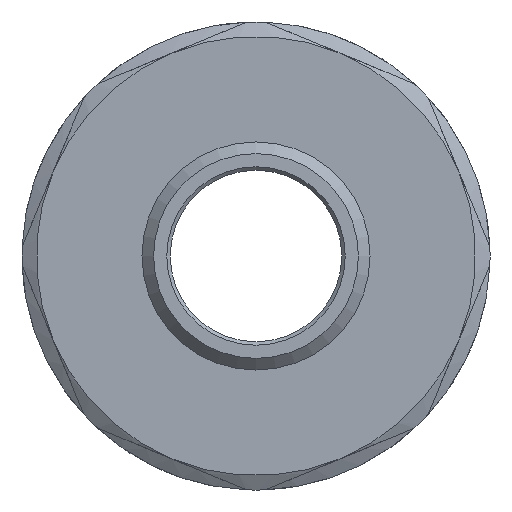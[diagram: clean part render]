
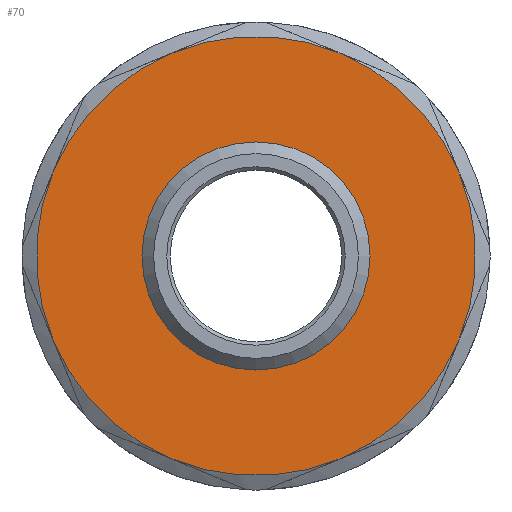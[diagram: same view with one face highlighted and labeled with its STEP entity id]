
A CAD part, front view. The second image highlights one B-rep face of the part: STEP entity #70.
In plain terms, the highlighted planar face has unit normal (0, -1, 0).
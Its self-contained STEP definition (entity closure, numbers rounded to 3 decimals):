
#70=ADVANCED_FACE('',(#272,#274),#276,.F.);
#272=FACE_BOUND('',#273,.T.);
#273=EDGE_LOOP('',(#444,#445,#446));
#274=FACE_BOUND('',#275,.T.);
#275=EDGE_LOOP('',(#447));
#276=PLANE('',#277);
#277=AXIS2_PLACEMENT_3D('',#278,#279,#280);
#278=CARTESIAN_POINT('',(0.,-25.5,0.));
#279=DIRECTION('',(0.,1.,0.));
#280=DIRECTION('',(-1.,0.,0.));
#444=ORIENTED_EDGE('',*,*,#514,.T.);
#445=ORIENTED_EDGE('',*,*,#509,.T.);
#446=ORIENTED_EDGE('',*,*,#519,.T.);
#447=ORIENTED_EDGE('',*,*,#500,.F.);
#500=EDGE_CURVE('',#608,#608,#609,.T.);
#509=EDGE_CURVE('',#612,#619,#621,.F.);
#514=EDGE_CURVE('',#626,#612,#627,.F.);
#519=EDGE_CURVE('',#619,#626,#632,.F.);
#608=VERTEX_POINT('',#831);
#609=CIRCLE('',#832,16.625);
#612=VERTEX_POINT('',#841);
#619=VERTEX_POINT('',#1040);
#621=CIRCLE('',#1063,32.);
#626=VERTEX_POINT('',#1206);
#627=CIRCLE('',#1207,32.);
#632=CIRCLE('',#1308,32.);
#831=CARTESIAN_POINT('',(16.625,-25.5,0.));
#832=AXIS2_PLACEMENT_3D('',#833,#834,#835);
#833=CARTESIAN_POINT('',(0.,-25.5,0.));
#834=DIRECTION('',(0.,-1.,0.));
#835=DIRECTION('',(1.,0.,0.));
#841=CARTESIAN_POINT('',(29.564,-25.5,12.246));
#1040=CARTESIAN_POINT('',(12.246,-25.5,-29.564));
#1063=AXIS2_PLACEMENT_3D('',#1064,#1065,#1066);
#1064=CARTESIAN_POINT('',(0.,-25.5,0.));
#1065=DIRECTION('',(0.,1.,0.));
#1066=DIRECTION('',(0.383,0.,-0.924));
#1206=CARTESIAN_POINT('',(29.564,-25.5,-12.246));
#1207=AXIS2_PLACEMENT_3D('',#1208,#1209,#1210);
#1208=CARTESIAN_POINT('',(0.,-25.5,0.));
#1209=DIRECTION('',(0.,1.,0.));
#1210=DIRECTION('',(0.924,0.,0.383));
#1308=AXIS2_PLACEMENT_3D('',#1309,#1310,#1311);
#1309=CARTESIAN_POINT('',(0.,-25.5,0.));
#1310=DIRECTION('',(0.,1.,0.));
#1311=DIRECTION('',(0.924,0.,-0.383));
